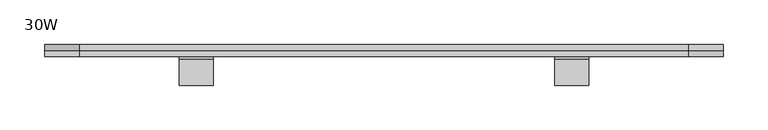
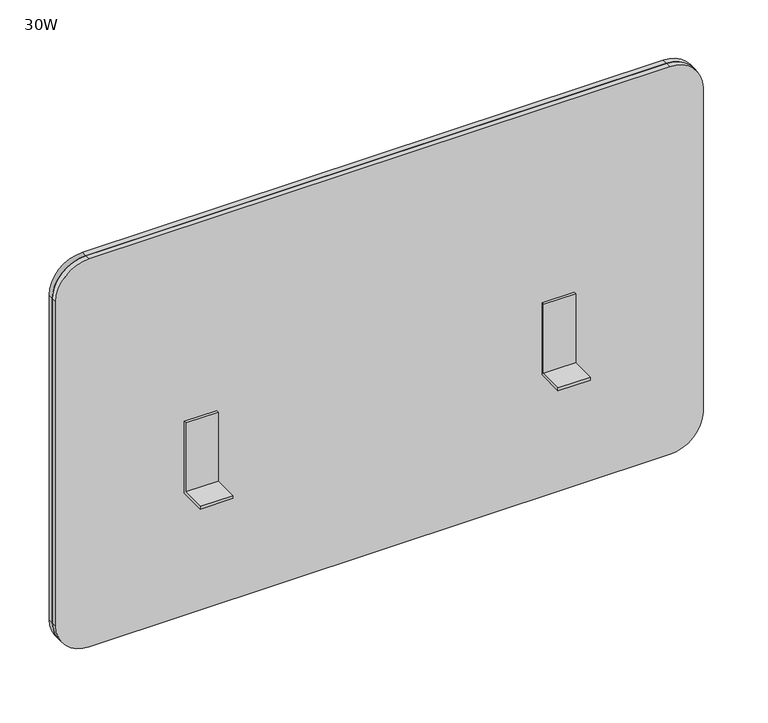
"""IFC4 building model written with IfcOpenShell, lengths in millimetres: furniture geometry, Steelcase Turnstone - Bivi - Screen - Straight : 30W."""

from ifc_helpers import new_model, si_unit, point, frame, frame_2d, origin, place, context, project, spatial, polyline, circle_curve, trimmed, segment, composite_curve, outline, extrude, source, transform, mapped, element, save


def furniture_30w_1343d662(model_context):
    return source(origin(), model_context, "Body", "SweptSolid", [
        extrude(outline(polyline([(-100.6456009, 700.9734272), (-100.6456009, 787.0495535), (-97.6872108, 787.0495535), (-97.6872108, 697.3921394), (-130.205922, 697.3921394), (-130.205922, 700.9734272), (-100.6456009, 700.9734272)])), frame((572.4617872, 0.0, 0.0), z_axis=(1.0, 0.0, 0.0), x_axis=(0.0, 1.0, 0.0)), (0.0, 0.0, 1.0), 38.2069702),
        extrude(outline(polyline([(-100.6456009, 700.9734272), (-100.6456009, 787.0495535), (-97.6872108, 787.0495535), (-97.6872108, 697.3921394), (-130.205922, 697.3921394), (-130.205922, 700.9734272), (-100.6456009, 700.9734272)])), frame((151.3312426, 0.0, 0.0), z_axis=(1.0, 0.0, 0.0), x_axis=(0.0, 1.0, 0.0)), (0.0, 0.0, 1.0), 38.2069702),
        extrude(outline(composite_curve([segment(polyline([(1028.3412889, 722.63), (1028.3412889, 39.4397467)]), True, "CONTINUOUS"), segment(trimmed(circle_curve(frame_2d((988.9015421, 39.4397467)), 39.4397467), [point((1028.3412889, 39.4397467))], [point((988.9015421, 0.0))], False, "CARTESIAN"), True, "CONTINUOUS"), segment(polyline([(988.9015421, 0.0), (585.1278182, 0.0)]), True, "CONTINUOUS"), segment(trimmed(circle_curve(frame_2d((585.1278182, 39.37)), 39.37), [point((585.1278182, 0.0))], [point((545.7578182, 39.37))], False, "CARTESIAN"), True, "CONTINUOUS"), segment(polyline([(545.7578182, 39.37), (545.7578182, 722.63)]), True, "CONTINUOUS"), segment(trimmed(circle_curve(frame_2d((585.1278182, 722.63)), 39.37), [point((545.7578182, 722.63))], [point((585.1278182, 762.0))], False, "CARTESIAN"), True, "CONTINUOUS"), segment(polyline([(585.1278182, 762.0), (988.9712889, 762.0)]), True, "CONTINUOUS"), segment(trimmed(circle_curve(frame_2d((988.9712889, 722.63)), 39.37), [point((988.9712889, 762.0))], [point((1028.3412889, 722.63))], False, "CARTESIAN"), True, "CONTINUOUS")], self_intersect=False)), frame((0.0, -90.878476, 0.0), z_axis=(0.0, 1.0, 0.0), x_axis=(0.0, 0.0, 1.0)), (0.0, 0.0, 1.0), 6.8087348),
        extrude(outline(composite_curve([segment(polyline([(1028.3412889, 722.63), (1028.3412889, 39.4397467)]), True, "CONTINUOUS"), segment(trimmed(circle_curve(frame_2d((988.9015421, 39.4397467)), 39.4397467), [point((1028.3412889, 39.4397467))], [point((988.9015421, 0.0))], False, "CARTESIAN"), True, "CONTINUOUS"), segment(polyline([(988.9015421, 0.0), (585.1278182, 0.0)]), True, "CONTINUOUS"), segment(trimmed(circle_curve(frame_2d((585.1278182, 39.37)), 39.37), [point((585.1278182, 0.0))], [point((545.7578182, 39.37))], False, "CARTESIAN"), True, "CONTINUOUS"), segment(polyline([(545.7578182, 39.37), (545.7578182, 722.63)]), True, "CONTINUOUS"), segment(trimmed(circle_curve(frame_2d((585.1278182, 722.63)), 39.37), [point((545.7578182, 722.63))], [point((585.1278182, 762.0))], False, "CARTESIAN"), True, "CONTINUOUS"), segment(polyline([(585.1278182, 762.0), (988.9712889, 762.0)]), True, "CONTINUOUS"), segment(trimmed(circle_curve(frame_2d((988.9712889, 722.63)), 39.37), [point((988.9712889, 762.0))], [point((1028.3412889, 722.63))], False, "CARTESIAN"), True, "CONTINUOUS")], self_intersect=False)), frame((0.0, -97.6872108, 0.0), z_axis=(0.0, 1.0, 0.0), x_axis=(0.0, 0.0, 1.0)), (0.0, 0.0, 1.0), 6.8087348),
    ])


if __name__ == "__main__":
    model = new_model("IFC4")
    model_context = context("Model", 3, world=origin())
    ifc_project = project(units=[si_unit("LENGTHUNIT", "METRE", prefix="MILLI")], contexts=[model_context])
    site = spatial("IfcSite", under=ifc_project)
    building = spatial("IfcBuilding", under=site)
    placement = place(None, origin())
    furniture_30w_shape = furniture_30w_1343d662(model_context)
    element("IfcFurniture", 1, ObjectType="Steelcase Turnstone - Bivi - Screen - Straight : 30W", at=placement, inside=building, context=model_context, shape_type="MappedRepresentation", body=[
        mapped(furniture_30w_shape, transform((0.0, 0.0, 0.0), x_axis=(1.0, 0.0, 0.0), y_axis=(0.0, 1.0, 0.0), z_axis=(0.0, 0.0, 1.0))),
    ])
    save(model, "model.ifc")
